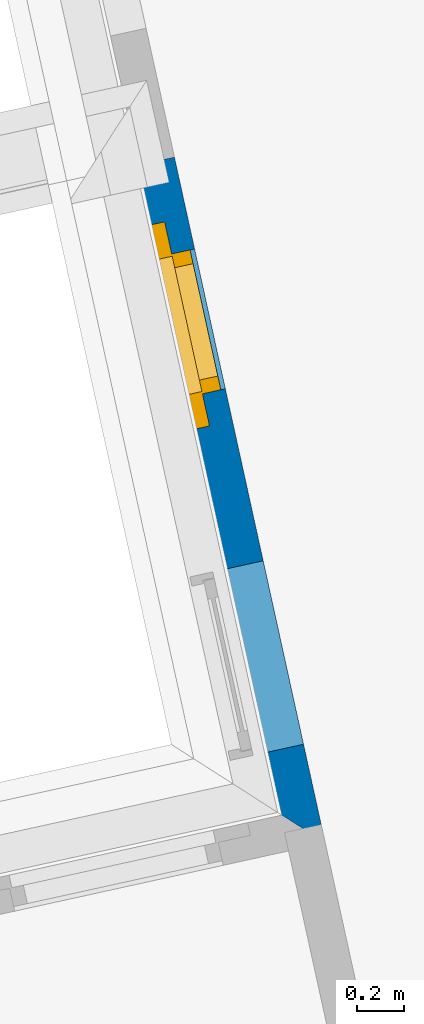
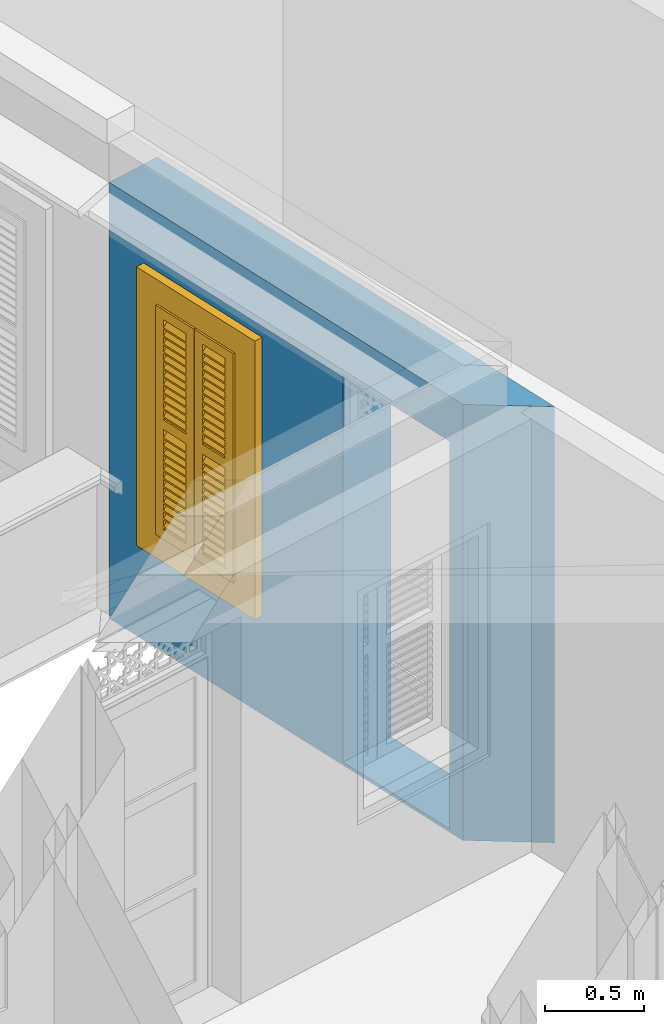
# One storey, part 7 of 17: 1 wall, 1 window, 2 openings.
"""IFC4 building model written with IfcOpenShell, lengths in metres."""

from ifc_helpers import new_model, si_unit, frame, origin, origin_with_axes, place, context, subcontext, project, spatial, polyline, outline, extrude, faceted_brep, source, transform, mapped, material, layer, layer_set, layer_usage, type_object, type_shapes, element, fill, save


model = new_model("IFC4")

# Units and contexts
model_context = context("Model", 3, world=origin_with_axes())
body_context = subcontext(model_context, "Body", "Model", "MODEL_VIEW")
ifc_project = project(units=[si_unit("PLANEANGLEUNIT", "RADIAN"), si_unit("MASSUNIT", "GRAM", prefix="KILO"), si_unit("FORCEUNIT", "NEWTON", prefix="KILO"), si_unit("LENGTHUNIT", "METRE"), si_unit("AREAUNIT", "SQUARE_METRE"), si_unit("VOLUMEUNIT", "CUBIC_METRE")], contexts=[model_context, model_context])

# Site, building, storey
site_placement = place(None, origin_with_axes())
site = spatial("IfcSite", under=ifc_project, at=site_placement, Name="Site plot-2", CompositionType="ELEMENT")
building_placement = place(None, origin_with_axes())
building = spatial("IfcBuilding", under=site, at=building_placement, Name="Building plot-2", CompositionType="ELEMENT")
storey_placement = place(None, frame((0.0, 0.0, 2.85), z_axis=(0.0, 0.0, 1.0), x_axis=(1.0, 0.0, 0.0)))
storey = spatial("IfcBuildingStorey", under=building, at=storey_placement, Name="plot-2 1", CompositionType="ELEMENT", Elevation=2.85)

# Wall, openings, window
ifc_material = material(Name="Masonry")
ifc_layer = layer(ifc_material, 0.33, ventilated=False)
ifc_layer_set = layer_set([ifc_layer], Name="exterior_0.08_0.25")
ifc_layer_usage = layer_usage(ifc_layer_set, "AXIS2", "POSITIVE", -0.25)
wall_type = type_object("IfcWallType", Name="exterior_0.08_0.25", PredefinedType="SOLIDWALL", material=ifc_layer_set)
wall_placement = place(storey_placement, frame((16.7741128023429, 7.45730474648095, 0.0), z_axis=(0.0, 0.0, 1.0), x_axis=(0.214808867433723, -0.976656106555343, 0.0)))
wall = element("IfcWall", 1, at=wall_placement, inside=storey, type_object=wall_type, material=ifc_layer_usage, Name="exterior", context=body_context, shape_type="SweptSolid", body=[
    extrude(outline(polyline([(-2.60634596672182e-15, 0.0800000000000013), (7.50359231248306e-15, -0.250000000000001), (2.66045830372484, -0.25), (2.99045830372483, 0.0799999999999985), (-2.60634596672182e-15, 0.0800000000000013)])), origin_with_axes(), (0.0, 0.0, 1.0), 2.7),
])
opening_1_placement = place(wall_placement, frame((0.400229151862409, 0.0, 0.75)))
opening_1 = element("IfcOpeningElement", 2, at=opening_1_placement, cuts=wall, Name="My Opening", ObjectType="Opening", context=body_context, shape_type="SweptSolid", body=[
    extrude(outline(polyline([(0.0, -0.269999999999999), (0.61, -0.270000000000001), (0.61, 1.1), (2.77555756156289e-16, 1.1), (0.0, -0.269999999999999)])), origin_with_axes(), (0.0, 0.0, 1.0), 1.445),
])
opening_2_placement = place(wall_placement, frame((1.76045830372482, 0.0, 0.02)))
element("IfcOpeningElement", 3, at=opening_2_placement, cuts=wall, Name="My Opening", ObjectType="Opening", context=body_context, shape_type="SweptSolid", body=[
    extrude(outline(polyline([(0.0, -0.27), (0.800000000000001, -0.269999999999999), (0.800000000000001, 1.1), (2.22044604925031e-16, 1.1), (0.0, -0.27)])), origin_with_axes(), (0.0, 0.0, 1.0), 2.4),
])
window_type = type_object("IfcWindowType", Name="shuttered_shorter_narrow", PartitioningType="DOUBLE_PANEL_HORIZONTAL", PredefinedType="NOTDEFINED")
shared_shape = source(origin(), body_context, "Body", "Brep", [
    faceted_brep([(0.243, 0.0, 0.622), (0.074, 0.0, 0.622), (0.074, 0.0, 0.632), (0.243, 0.0, 0.632), (0.074, -0.04, 0.592), (0.243, -0.04, 0.592), (0.243, -0.04, 0.582), (0.074, -0.04, 0.582), (0.367, 0.0, 0.682), (0.536, 0.0, 0.682), (0.536, 0.0, 0.672), (0.367, 0.0, 0.672), (0.367, -0.04, 0.642), (0.536, -0.04, 0.642), (0.536, -0.04, 0.632), (0.367, -0.04, 0.632), (0.367, 0.0, 0.632), (0.536, 0.0, 0.632), (0.536, 0.0, 0.622), (0.367, 0.0, 0.622), (0.367, -0.04, 0.592), (0.536, -0.04, 0.592), (0.536, -0.04, 0.582), (0.367, -0.04, 0.582), (0.367, 0.0, 0.232), (0.536, 0.0, 0.232), (0.536, 0.0, 0.222), (0.367, 0.0, 0.222), (0.367, -0.04, 0.192), (0.536, -0.04, 0.192), (0.536, -0.04, 0.182), (0.367, -0.04, 0.182), (0.367, 0.0, 0.532), (0.536, 0.0, 0.532), (0.536, 0.0, 0.522), (0.367, 0.0, 0.522), (0.367, -0.04, 0.492), (0.536, -0.04, 0.492), (0.536, -0.04, 0.482), (0.367, -0.04, 0.482), (0.367, 0.0, 0.482), (0.536, 0.0, 0.482), (0.536, 0.0, 0.472), (0.367, 0.0, 0.472), (0.367, -0.04, 0.442), (0.536, -0.04, 0.442), (0.536, -0.04, 0.432), (0.367, -0.04, 0.432), (0.367, 0.0, 0.582), (0.536, 0.0, 0.582), (0.536, 0.0, 0.572), (0.367, 0.0, 0.572), (0.367, -0.04, 0.542), (0.536, -0.04, 0.542), (0.536, -0.04, 0.532), (0.367, -0.04, 0.532), (0.367, 0.0, 0.182), (0.536, 0.0, 0.182), (0.536, 0.0, 0.172), (0.367, 0.0, 0.172), (0.367, -0.04, 0.142), (0.536, -0.04, 0.142), (0.536, -0.04, 0.132), (0.367, -0.04, 0.132), (0.367, 0.0, 0.382), (0.536, 0.0, 0.382), (0.536, 0.0, 0.372), (0.367, 0.0, 0.372), (0.367, -0.04, 0.342), (0.536, -0.04, 0.342), (0.536, -0.04, 0.332), (0.367, -0.04, 0.332), (0.367, 0.0, 0.432), (0.536, 0.0, 0.432), (0.536, 0.0, 0.422), (0.367, 0.0, 0.422), (0.367, -0.04, 0.392), (0.536, -0.04, 0.392), (0.536, -0.04, 0.382), (0.367, -0.04, 0.382), (0.367, 0.0, 0.132), (0.536, 0.0, 0.132), (0.536, 0.0, 0.122), (0.367, 0.0, 0.122), (0.367, -0.04, 0.092), (0.536, -0.04, 0.092), (0.536, -0.04, 0.082), (0.367, -0.04, 0.082), (0.367, 0.0, 0.282), (0.536, 0.0, 0.282), (0.536, 0.0, 0.272), (0.367, 0.0, 0.272), (0.367, -0.04, 0.242), (0.536, -0.04, 0.242), (0.536, -0.04, 0.232), (0.367, -0.04, 0.232), (0.367, 0.0, 0.332), (0.536, 0.0, 0.332), (0.536, 0.0, 0.322), (0.367, 0.0, 0.322), (0.367, -0.04, 0.292), (0.536, -0.04, 0.292), (0.536, -0.04, 0.282), (0.367, -0.04, 0.282), (0.367, 0.0, 1.362667), (0.536, 0.0, 1.362667), (0.536, 0.0, 1.352667), (0.367, 0.0, 1.352667), (0.367, -0.04, 1.322667), (0.536, -0.04, 1.322667), (0.536, -0.04, 1.312667), (0.367, -0.04, 1.312667), (0.367, 0.0, 1.312667), (0.536, 0.0, 1.312667), (0.536, 0.0, 1.302667), (0.367, 0.0, 1.302667), (0.367, -0.04, 1.272667), (0.536, -0.04, 1.272667), (0.536, -0.04, 1.262667), (0.367, -0.04, 1.262667), (0.367, 0.0, 0.912667), (0.536, 0.0, 0.912667), (0.536, 0.0, 0.902667), (0.367, 0.0, 0.902667), (0.367, -0.04, 0.872667), (0.536, -0.04, 0.872667), (0.536, -0.04, 0.862667), (0.367, -0.04, 0.862667), (0.367, 0.0, 1.212667), (0.536, 0.0, 1.212667), (0.536, 0.0, 1.202667), (0.367, 0.0, 1.202667), (0.367, -0.04, 1.172667), (0.536, -0.04, 1.172667), (0.536, -0.04, 1.162667), (0.367, -0.04, 1.162667), (0.367, 0.0, 1.162667), (0.536, 0.0, 1.162667), (0.536, 0.0, 1.152667), (0.367, 0.0, 1.152667), (0.367, -0.04, 1.122667), (0.536, -0.04, 1.122667), (0.536, -0.04, 1.112667), (0.367, -0.04, 1.112667), (0.367, 0.0, 1.262667), (0.536, 0.0, 1.262667), (0.536, 0.0, 1.252667), (0.367, 0.0, 1.252667), (0.367, -0.04, 1.222667), (0.536, -0.04, 1.222667), (0.536, -0.04, 1.212667), (0.367, -0.04, 1.212667), (0.367, 0.0, 0.862667), (0.536, 0.0, 0.862667), (0.536, 0.0, 0.852667), (0.367, 0.0, 0.852667), (0.367, -0.04, 0.822667), (0.536, -0.04, 0.822667), (0.536, -0.04, 0.812667), (0.367, -0.04, 0.812667), (0.367, 0.0, 1.062667), (0.536, 0.0, 1.062667), (0.536, 0.0, 1.052667), (0.367, 0.0, 1.052667), (0.367, -0.04, 1.022667), (0.536, -0.04, 1.022667), (0.536, -0.04, 1.012667), (0.367, -0.04, 1.012667), (0.367, 0.0, 1.112667), (0.536, 0.0, 1.112667), (0.536, 0.0, 1.102667), (0.367, 0.0, 1.102667), (0.367, -0.04, 1.072667), (0.536, -0.04, 1.072667), (0.536, -0.04, 1.062667), (0.367, -0.04, 1.062667), (0.367, 0.0, 0.812667), (0.536, 0.0, 0.812667), (0.536, 0.0, 0.802667), (0.367, 0.0, 0.802667), (0.367, -0.04, 0.772667), (0.536, -0.04, 0.772667), (0.536, -0.04, 0.762667), (0.367, -0.04, 0.762667), (0.367, 0.0, 0.962667), (0.536, 0.0, 0.962667), (0.536, 0.0, 0.952667), (0.367, 0.0, 0.952667), (0.367, -0.04, 0.922667), (0.536, -0.04, 0.922667), (0.536, -0.04, 0.912667), (0.367, -0.04, 0.912667), (0.367, 0.0, 1.012667), (0.536, 0.0, 1.012667), (0.536, 0.0, 1.002667), (0.367, 0.0, 1.002667), (0.367, -0.04, 0.972667), (0.536, -0.04, 0.972667), (0.536, -0.04, 0.962667), (0.367, -0.04, 0.962667), (0.074, 0.0, 0.682), (0.243, 0.0, 0.682), (0.243, 0.0, 0.672), (0.074, 0.0, 0.672), (0.074, -0.04, 0.642), (0.243, -0.04, 0.642), (0.243, -0.04, 0.632), (0.074, -0.04, 0.632), (0.074, 0.0, 0.232), (0.243, 0.0, 0.232), (0.243, 0.0, 0.222), (0.074, 0.0, 0.222), (0.074, -0.04, 0.192), (0.243, -0.04, 0.192), (0.243, -0.04, 0.182), (0.074, -0.04, 0.182), (0.074, 0.0, 0.532), (0.243, 0.0, 0.532), (0.243, 0.0, 0.522), (0.074, 0.0, 0.522), (0.074, -0.04, 0.492), (0.243, -0.04, 0.492), (0.243, -0.04, 0.482), (0.074, -0.04, 0.482), (0.074, 0.0, 0.482), (0.243, 0.0, 0.482), (0.243, 0.0, 0.472), (0.074, 0.0, 0.472), (0.074, -0.04, 0.442), (0.243, -0.04, 0.442), (0.243, -0.04, 0.432), (0.074, -0.04, 0.432), (0.074, 0.0, 0.582), (0.243, 0.0, 0.582), (0.243, 0.0, 0.572), (0.074, 0.0, 0.572), (0.074, -0.04, 0.542), (0.243, -0.04, 0.542), (0.243, -0.04, 0.532), (0.074, -0.04, 0.532), (0.074, 0.0, 0.182), (0.243, 0.0, 0.182), (0.243, 0.0, 0.172), (0.074, 0.0, 0.172), (0.074, -0.04, 0.142), (0.243, -0.04, 0.142), (0.243, -0.04, 0.132), (0.074, -0.04, 0.132), (0.074, 0.0, 0.382), (0.243, 0.0, 0.382), (0.243, 0.0, 0.372), (0.074, 0.0, 0.372), (0.074, -0.04, 0.342), (0.243, -0.04, 0.342), (0.243, -0.04, 0.332), (0.074, -0.04, 0.332), (0.074, 0.0, 0.432), (0.243, 0.0, 0.432), (0.243, 0.0, 0.422), (0.074, 0.0, 0.422), (0.074, -0.04, 0.392), (0.243, -0.04, 0.392), (0.243, -0.04, 0.382), (0.074, -0.04, 0.382), (0.074, 0.0, 0.132), (0.243, 0.0, 0.132), (0.243, 0.0, 0.122), (0.074, 0.0, 0.122), (0.074, -0.04, 0.092), (0.243, -0.04, 0.092), (0.243, -0.04, 0.082), (0.074, -0.04, 0.082), (0.074, 0.0, 0.282), (0.243, 0.0, 0.282), (0.243, 0.0, 0.272), (0.074, 0.0, 0.272), (0.074, -0.04, 0.242), (0.243, -0.04, 0.242), (0.243, -0.04, 0.232), (0.074, -0.04, 0.232), (0.074, 0.0, 0.332), (0.243, 0.0, 0.332), (0.243, 0.0, 0.322), (0.074, 0.0, 0.322), (0.074, -0.04, 0.292), (0.243, -0.04, 0.292), (0.243, -0.04, 0.282), (0.074, -0.04, 0.282), (0.074, 0.0, 1.362667), (0.243, 0.0, 1.362667), (0.243, 0.0, 1.352667), (0.074, 0.0, 1.352667), (0.074, -0.04, 1.322667), (0.243, -0.04, 1.322667), (0.243, -0.04, 1.312667), (0.074, -0.04, 1.312667), (0.074, 0.0, 1.312667), (0.243, 0.0, 1.312667), (0.243, 0.0, 1.302667), (0.074, 0.0, 1.302667), (0.074, -0.04, 1.272667), (0.243, -0.04, 1.272667), (0.243, -0.04, 1.262667), (0.074, -0.04, 1.262667), (0.074, 0.0, 0.912667), (0.243, 0.0, 0.912667), (0.243, 0.0, 0.902667), (0.074, 0.0, 0.902667), (0.074, -0.04, 0.872667), (0.243, -0.04, 0.872667), (0.243, -0.04, 0.862667), (0.074, -0.04, 0.862667), (0.074, 0.0, 1.212667), (0.243, 0.0, 1.212667), (0.243, 0.0, 1.202667), (0.074, 0.0, 1.202667), (0.074, -0.04, 1.172667), (0.243, -0.04, 1.172667), (0.243, -0.04, 1.162667), (0.074, -0.04, 1.162667), (0.074, 0.0, 1.162667), (0.243, 0.0, 1.162667), (0.243, 0.0, 1.152667), (0.074, 0.0, 1.152667), (0.074, -0.04, 1.122667), (0.243, -0.04, 1.122667), (0.243, -0.04, 1.112667), (0.074, -0.04, 1.112667), (0.074, 0.0, 1.262667), (0.243, 0.0, 1.262667), (0.243, 0.0, 1.252667), (0.074, 0.0, 1.252667), (0.074, -0.04, 1.222667), (0.243, -0.04, 1.222667), (0.243, -0.04, 1.212667), (0.074, -0.04, 1.212667), (0.074, 0.0, 0.862667), (0.243, 0.0, 0.862667), (0.243, 0.0, 0.852667), (0.074, 0.0, 0.852667), (0.074, -0.04, 0.822667), (0.243, -0.04, 0.822667), (0.243, -0.04, 0.812667), (0.074, -0.04, 0.812667), (0.074, 0.0, 1.062667), (0.243, 0.0, 1.062667), (0.243, 0.0, 1.052667), (0.074, 0.0, 1.052667), (0.074, -0.04, 1.022667), (0.243, -0.04, 1.022667), (0.243, -0.04, 1.012667), (0.074, -0.04, 1.012667), (0.074, 0.0, 1.112667), (0.243, 0.0, 1.112667), (0.243, 0.0, 1.102667), (0.074, 0.0, 1.102667), (0.074, -0.04, 1.072667), (0.243, -0.04, 1.072667), (0.243, -0.04, 1.062667), (0.074, -0.04, 1.062667), (0.074, 0.0, 0.812667), (0.243, 0.0, 0.812667), (0.243, 0.0, 0.802667), (0.074, 0.0, 0.802667), (0.074, -0.04, 0.772667), (0.243, -0.04, 0.772667), (0.243, -0.04, 0.762667), (0.074, -0.04, 0.762667), (0.074, 0.0, 0.962667), (0.243, 0.0, 0.962667), (0.243, 0.0, 0.952667), (0.074, 0.0, 0.952667), (0.074, -0.04, 0.922667), (0.243, -0.04, 0.922667), (0.243, -0.04, 0.912667), (0.074, -0.04, 0.912667), (0.074, 0.0, 1.012667), (0.243, 0.0, 1.012667), (0.243, 0.0, 1.002667), (0.074, 0.0, 1.002667), (0.074, -0.04, 0.972667), (0.243, -0.04, 0.972667), (0.243, -0.04, 0.962667), (0.074, -0.04, 0.962667), (0.367, -0.04, 0.072), (0.307, -0.04, 0.012), (0.596, -0.04, 0.012), (0.536, -0.04, 0.072), (0.307, -0.04, 0.692667), (0.367, -0.04, 0.692667), (0.307, 0.0, 0.012), (0.596, 0.0, 0.012), (0.536, -0.04, 0.692667), (0.596, -0.04, 0.692667), (0.536, 0.0, 0.072), (0.367, 0.0, 0.072), (0.307, 0.0, 0.692667), (0.367, 0.0, 0.692667), (0.367, -0.04, 0.752666), (0.307, -0.04, 0.752666), (0.596, 0.0, 0.692667), (0.536, 0.0, 0.692667), (0.536, -0.04, 0.752666), (0.596, -0.04, 0.752666), (0.307, 0.0, 0.752666), (0.307, -0.04, 1.433333), (0.367, -0.04, 1.373333), (0.596, 0.0, 0.752666), (0.536, -0.04, 1.373333), (0.596, -0.04, 1.433333), (0.307, 0.0, 1.433333), (0.367, 0.0, 0.752666), (0.536, 0.0, 0.752666), (0.367, 0.0, 1.373333), (0.596, 0.0, 1.433333), (0.536, 0.0, 1.373333), (0.074, -0.04, 0.072), (0.014, -0.04, 0.012), (0.303, -0.04, 0.012), (0.243, -0.04, 0.072), (0.014, -0.04, 0.692667), (0.074, -0.04, 0.692667), (0.014, 0.0, 0.012), (0.303, 0.0, 0.012), (0.243, -0.04, 0.692667), (0.303, -0.04, 0.692667), (0.243, 0.0, 0.072), (0.074, 0.0, 0.072), (0.014, 0.0, 0.692667), (0.074, 0.0, 0.692667), (0.074, -0.04, 0.752666), (0.014, -0.04, 0.752666), (0.303, 0.0, 0.692667), (0.243, 0.0, 0.692667), (0.243, -0.04, 0.752666), (0.303, -0.04, 0.752666), (0.014, 0.0, 0.752666), (0.014, -0.04, 1.433333), (0.074, -0.04, 1.373333), (0.303, 0.0, 0.752666), (0.243, -0.04, 1.373333), (0.303, -0.04, 1.433333), (0.014, 0.0, 1.433333), (0.074, 0.0, 0.752666), (0.243, 0.0, 0.752666), (0.074, 0.0, 1.373333), (0.303, 0.0, 1.433333), (0.243, 0.0, 1.373333), (0.0, 0.33, 1.445), (0.61, 0.33, 1.445), (0.55, 0.33, 1.385), (0.06, 0.33, 1.385), (0.61, 0.25, 1.445), (0.0, 0.25, 1.445), (0.61, 0.25, 1.445), (0.55, 0.33, 0.06), (0.61, 0.33, 0.0), (0.55, 0.25, 1.385), (0.06, 0.25, 1.385), (0.0, 0.33, 0.0), (0.06, 0.33, 0.06), (0.0, 0.25, 0.0), (0.61, 0.25, 0.0), (0.55, 0.25, 0.06), (0.06, 0.25, 0.06), (0.75, 0.25, 1.585), (-0.14, 0.25, 1.585), (-0.14, -0.03, 1.585), (0.75, -0.03, 1.585), (0.6, -0.03, 1.435), (0.01, -0.03, 1.435), (0.01, 0.25, 1.435), (0.6, 0.25, 1.435), (0.6, 0.25, 0.01), (0.6, -0.03, 0.01), (0.75, -0.03, -0.14), (0.75, 0.25, -0.14), (0.01, -0.03, 0.01), (0.01, 0.25, 0.01), (-0.14, -0.03, -0.14), (-0.14, 0.25, -0.14)], [[[0, 1, 2, 3]], [[4, 5, 3, 2]], [[5, 6, 0, 3]], [[1, 0, 6, 7]], [[2, 1, 7, 4]], [[5, 4, 7, 6]], [[8, 9, 10, 11]], [[12, 13, 9, 8]], [[13, 14, 10, 9]], [[14, 15, 11, 10]], [[15, 12, 8, 11]], [[13, 12, 15, 14]], [[16, 17, 18, 19]], [[20, 21, 17, 16]], [[21, 22, 18, 17]], [[22, 23, 19, 18]], [[23, 20, 16, 19]], [[21, 20, 23, 22]], [[24, 25, 26, 27]], [[28, 29, 25, 24]], [[29, 30, 26, 25]], [[30, 31, 27, 26]], [[31, 28, 24, 27]], [[29, 28, 31, 30]], [[32, 33, 34, 35]], [[36, 37, 33, 32]], [[37, 38, 34, 33]], [[38, 39, 35, 34]], [[39, 36, 32, 35]], [[37, 36, 39, 38]], [[40, 41, 42, 43]], [[44, 45, 41, 40]], [[45, 46, 42, 41]], [[46, 47, 43, 42]], [[47, 44, 40, 43]], [[45, 44, 47, 46]], [[48, 49, 50, 51]], [[52, 53, 49, 48]], [[53, 54, 50, 49]], [[54, 55, 51, 50]], [[55, 52, 48, 51]], [[53, 52, 55, 54]], [[56, 57, 58, 59]], [[60, 61, 57, 56]], [[61, 62, 58, 57]], [[62, 63, 59, 58]], [[63, 60, 56, 59]], [[61, 60, 63, 62]], [[64, 65, 66, 67]], [[68, 69, 65, 64]], [[69, 70, 66, 65]], [[70, 71, 67, 66]], [[71, 68, 64, 67]], [[69, 68, 71, 70]], [[72, 73, 74, 75]], [[76, 77, 73, 72]], [[77, 78, 74, 73]], [[78, 79, 75, 74]], [[79, 76, 72, 75]], [[77, 76, 79, 78]], [[80, 81, 82, 83]], [[84, 85, 81, 80]], [[85, 86, 82, 81]], [[86, 87, 83, 82]], [[87, 84, 80, 83]], [[85, 84, 87, 86]], [[88, 89, 90, 91]], [[92, 93, 89, 88]], [[93, 94, 90, 89]], [[94, 95, 91, 90]], [[95, 92, 88, 91]], [[93, 92, 95, 94]], [[96, 97, 98, 99]], [[100, 101, 97, 96]], [[101, 102, 98, 97]], [[102, 103, 99, 98]], [[103, 100, 96, 99]], [[101, 100, 103, 102]], [[104, 105, 106, 107]], [[108, 109, 105, 104]], [[109, 110, 106, 105]], [[110, 111, 107, 106]], [[111, 108, 104, 107]], [[109, 108, 111, 110]], [[112, 113, 114, 115]], [[116, 117, 113, 112]], [[117, 118, 114, 113]], [[118, 119, 115, 114]], [[119, 116, 112, 115]], [[117, 116, 119, 118]], [[120, 121, 122, 123]], [[124, 125, 121, 120]], [[125, 126, 122, 121]], [[126, 127, 123, 122]], [[127, 124, 120, 123]], [[125, 124, 127, 126]], [[128, 129, 130, 131]], [[132, 133, 129, 128]], [[133, 134, 130, 129]], [[134, 135, 131, 130]], [[135, 132, 128, 131]], [[133, 132, 135, 134]], [[136, 137, 138, 139]], [[140, 141, 137, 136]], [[141, 142, 138, 137]], [[142, 143, 139, 138]], [[139, 143, 140, 136]], [[141, 140, 143, 142]], [[144, 145, 146, 147]], [[148, 149, 145, 144]], [[149, 150, 146, 145]], [[150, 151, 147, 146]], [[151, 148, 144, 147]], [[149, 148, 151, 150]], [[152, 153, 154, 155]], [[156, 157, 153, 152]], [[157, 158, 154, 153]], [[158, 159, 155, 154]], [[159, 156, 152, 155]], [[157, 156, 159, 158]], [[160, 161, 162, 163]], [[164, 165, 161, 160]], [[165, 166, 162, 161]], [[166, 167, 163, 162]], [[167, 164, 160, 163]], [[165, 164, 167, 166]], [[168, 169, 170, 171]], [[172, 173, 169, 168]], [[173, 174, 170, 169]], [[174, 175, 171, 170]], [[175, 172, 168, 171]], [[173, 172, 175, 174]], [[176, 177, 178, 179]], [[180, 181, 177, 176]], [[181, 182, 178, 177]], [[182, 183, 179, 178]], [[183, 180, 176, 179]], [[181, 180, 183, 182]], [[184, 185, 186, 187]], [[188, 189, 185, 184]], [[189, 190, 186, 185]], [[190, 191, 187, 186]], [[191, 188, 184, 187]], [[189, 188, 191, 190]], [[192, 193, 194, 195]], [[196, 197, 193, 192]], [[197, 198, 194, 193]], [[198, 199, 195, 194]], [[199, 196, 192, 195]], [[197, 196, 199, 198]], [[200, 201, 202, 203]], [[204, 205, 201, 200]], [[205, 206, 202, 201]], [[206, 207, 203, 202]], [[207, 204, 200, 203]], [[205, 204, 207, 206]], [[208, 209, 210, 211]], [[212, 213, 209, 208]], [[213, 214, 210, 209]], [[214, 215, 211, 210]], [[215, 212, 208, 211]], [[213, 212, 215, 214]], [[216, 217, 218, 219]], [[220, 221, 217, 216]], [[221, 222, 218, 217]], [[222, 223, 219, 218]], [[223, 220, 216, 219]], [[221, 220, 223, 222]], [[224, 225, 226, 227]], [[228, 229, 225, 224]], [[229, 230, 226, 225]], [[230, 231, 227, 226]], [[231, 228, 224, 227]], [[229, 228, 231, 230]], [[232, 233, 234, 235]], [[236, 237, 233, 232]], [[237, 238, 234, 233]], [[238, 239, 235, 234]], [[239, 236, 232, 235]], [[237, 236, 239, 238]], [[240, 241, 242, 243]], [[244, 245, 241, 240]], [[245, 246, 242, 241]], [[246, 247, 243, 242]], [[247, 244, 240, 243]], [[245, 244, 247, 246]], [[248, 249, 250, 251]], [[252, 253, 249, 248]], [[253, 254, 250, 249]], [[254, 255, 251, 250]], [[255, 252, 248, 251]], [[253, 252, 255, 254]], [[256, 257, 258, 259]], [[260, 261, 257, 256]], [[261, 262, 258, 257]], [[262, 263, 259, 258]], [[263, 260, 256, 259]], [[261, 260, 263, 262]], [[264, 265, 266, 267]], [[268, 269, 265, 264]], [[269, 270, 266, 265]], [[270, 271, 267, 266]], [[271, 268, 264, 267]], [[269, 268, 271, 270]], [[272, 273, 274, 275]], [[276, 277, 273, 272]], [[277, 278, 274, 273]], [[278, 279, 275, 274]], [[279, 276, 272, 275]], [[277, 276, 279, 278]], [[280, 281, 282, 283]], [[284, 285, 281, 280]], [[285, 286, 282, 281]], [[286, 287, 283, 282]], [[287, 284, 280, 283]], [[285, 284, 287, 286]], [[288, 289, 290, 291]], [[292, 293, 289, 288]], [[293, 294, 290, 289]], [[294, 295, 291, 290]], [[295, 292, 288, 291]], [[293, 292, 295, 294]], [[296, 297, 298, 299]], [[300, 301, 297, 296]], [[301, 302, 298, 297]], [[302, 303, 299, 298]], [[303, 300, 296, 299]], [[301, 300, 303, 302]], [[304, 305, 306, 307]], [[308, 309, 305, 304]], [[309, 310, 306, 305]], [[310, 311, 307, 306]], [[311, 308, 304, 307]], [[309, 308, 311, 310]], [[312, 313, 314, 315]], [[316, 317, 313, 312]], [[317, 318, 314, 313]], [[318, 319, 315, 314]], [[319, 316, 312, 315]], [[317, 316, 319, 318]], [[320, 321, 322, 323]], [[324, 325, 321, 320]], [[325, 326, 322, 321]], [[326, 327, 323, 322]], [[327, 324, 320, 323]], [[325, 324, 327, 326]], [[328, 329, 330, 331]], [[332, 333, 329, 328]], [[333, 334, 330, 329]], [[334, 335, 331, 330]], [[335, 332, 328, 331]], [[333, 332, 335, 334]], [[336, 337, 338, 339]], [[340, 341, 337, 336]], [[341, 342, 338, 337]], [[342, 343, 339, 338]], [[343, 340, 336, 339]], [[341, 340, 343, 342]], [[344, 345, 346, 347]], [[348, 349, 345, 344]], [[349, 350, 346, 345]], [[350, 351, 347, 346]], [[351, 348, 344, 347]], [[349, 348, 351, 350]], [[352, 353, 354, 355]], [[356, 357, 353, 352]], [[357, 358, 354, 353]], [[358, 359, 355, 354]], [[359, 356, 352, 355]], [[357, 356, 359, 358]], [[360, 361, 362, 363]], [[364, 365, 361, 360]], [[365, 366, 362, 361]], [[366, 367, 363, 362]], [[367, 364, 360, 363]], [[365, 364, 367, 366]], [[368, 369, 370, 371]], [[372, 373, 369, 368]], [[373, 374, 370, 369]], [[374, 375, 371, 370]], [[375, 372, 368, 371]], [[373, 372, 375, 374]], [[376, 377, 378, 379]], [[380, 381, 377, 376]], [[381, 382, 378, 377]], [[382, 383, 379, 378]], [[383, 380, 376, 379]], [[381, 380, 383, 382]], [[384, 385, 386, 387]], [[388, 385, 384, 389]], [[390, 391, 386, 385]], [[392, 387, 386, 393]], [[384, 387, 394, 395]], [[390, 385, 388, 396]], [[389, 384, 395, 397]], [[389, 398, 399, 388]], [[390, 395, 394, 391]], [[400, 393, 386, 391]], [[387, 392, 401, 394]], [[402, 392, 393, 403]], [[396, 388, 399, 404]], [[390, 396, 397, 395]], [[392, 389, 397, 401]], [[398, 389, 392, 402]], [[405, 399, 398, 406]], [[394, 401, 400, 391]], [[407, 403, 393, 400]], [[408, 402, 403, 409]], [[404, 399, 405, 410]], [[411, 397, 396, 404]], [[397, 411, 412, 401]], [[398, 402, 412, 411]], [[406, 398, 411, 413]], [[405, 406, 408, 409]], [[401, 412, 407, 400]], [[414, 409, 403, 407]], [[402, 408, 415, 412]], [[405, 409, 414, 410]], [[404, 410, 413, 411]], [[408, 406, 413, 415]], [[412, 415, 414, 407]], [[413, 410, 414, 415]], [[416, 417, 418, 419]], [[420, 417, 416, 421]], [[422, 423, 418, 417]], [[424, 419, 418, 425]], [[416, 419, 426, 427]], [[422, 417, 420, 428]], [[421, 416, 427, 429]], [[421, 430, 431, 420]], [[422, 427, 426, 423]], [[432, 425, 418, 423]], [[419, 424, 433, 426]], [[434, 424, 425, 435]], [[428, 420, 431, 436]], [[422, 428, 429, 427]], [[424, 421, 429, 433]], [[430, 421, 424, 434]], [[437, 431, 430, 438]], [[426, 433, 432, 423]], [[439, 435, 425, 432]], [[440, 434, 435, 441]], [[436, 431, 437, 442]], [[443, 429, 428, 436]], [[429, 443, 444, 433]], [[430, 434, 444, 443]], [[438, 430, 443, 445]], [[437, 438, 440, 441]], [[433, 444, 439, 432]], [[446, 441, 435, 439]], [[434, 440, 447, 444]], [[437, 441, 446, 442]], [[436, 442, 445, 443]], [[440, 438, 445, 447]], [[444, 447, 446, 439]], [[445, 442, 446, 447]], [[448, 449, 450, 451]], [[452, 449, 448]], [[448, 453, 454]], [[448, 454, 452]], [[455, 450, 449, 456]], [[451, 450, 457, 458]], [[459, 448, 451, 460]], [[448, 459, 461, 453]], [[454, 453, 458, 457]], [[462, 452, 454]], [[454, 457, 463]], [[454, 463, 462]], [[456, 449, 452, 462]], [[450, 455, 463, 457]], [[456, 459, 460, 455]], [[460, 451, 458, 464]], [[459, 456, 462, 461]], [[464, 458, 453, 461]], [[461, 462, 463, 464]], [[455, 460, 464, 463]], [[465, 466, 467, 468]], [[469, 470, 471, 472]], [[473, 474, 469, 472]], [[465, 468, 475, 476]], [[470, 477, 478, 471]], [[474, 473, 478, 477]], [[474, 477, 479, 475]], [[470, 467, 479, 477]], [[470, 469, 468, 467]], [[474, 475, 468, 469]], [[471, 478, 480, 466]], [[473, 472, 465, 476]], [[473, 476, 480, 478]], [[466, 465, 472, 471]], [[480, 476, 475, 479]], [[480, 479, 467, 466]]]),
])
type_shapes(window_type, [shared_shape])
window_placement = place(storey_placement, frame((16.5963884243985, 7.00842010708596, 0.75), z_axis=(0.0, 0.0, 1.0), x_axis=(0.13103340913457, -0.595760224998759, 0.0)))
window = element("IfcWindow", 4, at=window_placement, inside=storey, type_object=window_type, Name="bedroom sahn window", OverallHeight=1.445, OverallWidth=0.61, context=body_context, shape_type="MappedRepresentation", body=[
    mapped(shared_shape, transform((0.0, 0.0, 0.0), scale=1.0)),
])
fill(opening_1, window)

save(model, "model.ifc")
